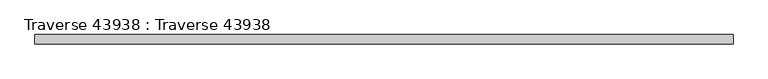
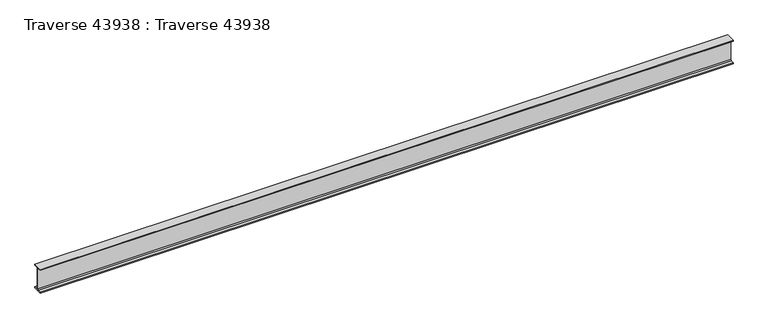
"""IFC4 building model written with IfcOpenShell, lengths in millimetres: beam geometry, Traverse 43938 : Traverse 43938."""

from ifc_helpers import new_model, si_unit, frame, origin, place, context, project, spatial, polyline, outline, extrude, source, transform, mapped, element, save


def traverse_43938_traverse_43938_9776f5c6(model_context):
    return source(origin(), model_context, "Body", "SweptSolid", [
        extrude(outline(polyline([(-19778.0, 7455.5841583), (-19778.0, 7472.7841583), (-19702.55, 7472.7841583), (-19678.55, 7496.7841583), (-19678.55, 7964.3841583), (-19702.55, 7988.3841583), (-19778.0, 7988.3841583), (-19778.0, 8005.5841583), (-19568.0, 8005.5841583), (-19568.0, 7988.3841583), (-19643.45, 7988.3841583), (-19667.45, 7964.3841583), (-19667.45, 7496.7841583), (-19643.45, 7472.7841583), (-19568.0, 7472.7841583), (-19568.0, 7455.5841583), (-19778.0, 7455.5841583)])), frame((-43.5000001, 0.0, 0.0), z_axis=(1.0, 0.0, 0.0), x_axis=(0.0, 1.0, 0.0)), (0.0, 0.0, 1.0), 15433.5),
    ])


if __name__ == "__main__":
    model = new_model("IFC4")
    model_context = context("Model", 3, world=origin())
    ifc_project = project(units=[si_unit("LENGTHUNIT", "METRE", prefix="MILLI")], contexts=[model_context])
    site = spatial("IfcSite", under=ifc_project)
    building = spatial("IfcBuilding", under=site)
    placement = place(None, origin())
    traverse_43938_traverse_43938_shape = traverse_43938_traverse_43938_9776f5c6(model_context)
    element("IfcBeam", 1, ObjectType="Traverse 43938 : Traverse 43938", at=placement, inside=building, context=model_context, shape_type="MappedRepresentation", body=[
        mapped(traverse_43938_traverse_43938_shape, transform((0.0, 0.0, 0.0), x_axis=(1.0, 0.0, 0.0), y_axis=(0.0, 1.0, 0.0), z_axis=(0.0, 0.0, 1.0))),
    ])
    save(model, "model.ifc")
